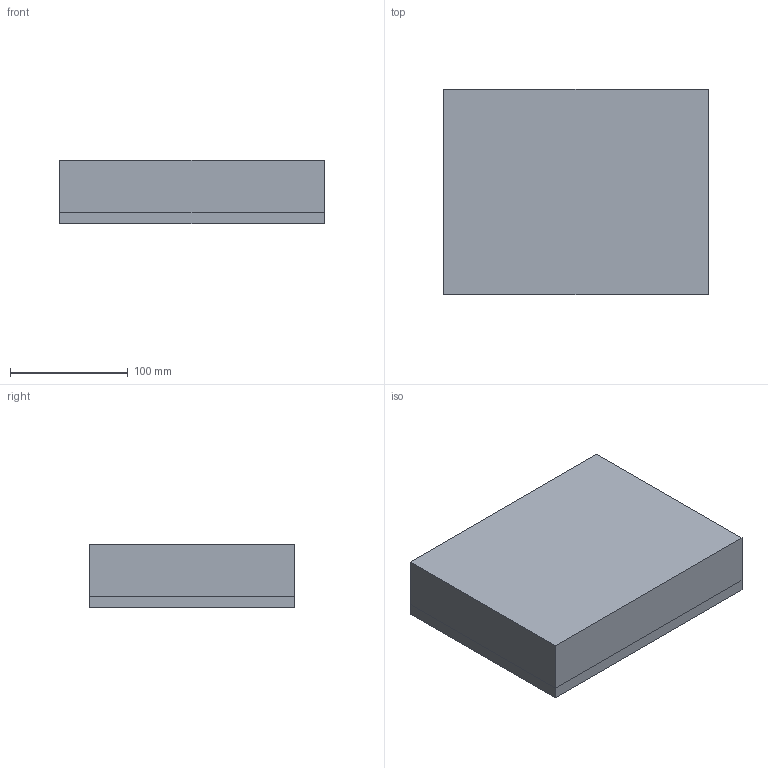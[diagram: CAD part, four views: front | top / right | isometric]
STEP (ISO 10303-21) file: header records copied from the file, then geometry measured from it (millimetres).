
FILE_DESCRIPTION(('CATIA V5 STEP Exchange'),'2;1');
FILE_NAME('C:\_Andres\UNIVERSIDAD\IQS\ASIGNATURAS\DAO\Controles\1920\c2\c2-Villanueva_Manye_Arnau.stp','2020-02-10T15:38:51+00:00',('none'),('none'),'CATIA Version 5 Release 19 SP 3 (IN-10)','CATIA V5 STEP AP203','none');
FILE_SCHEMA(('CONFIG_CONTROL_DESIGN'));
Length unit declared in the file: millimetre
Products named in the file (1): c2-Villanueva_Manye_Arnau
Bounding box: 224 x 174 x 54 mm (x, y, z)
Surface area: 308214.1 mm2
Topology: 3 solids, 3 shells, 103 faces, 232 edges, 128 vertices
Faces by surface type: cylinder 40, plane 27, bspline 24, sphere 12
Entity records: 3356 total; most frequent: CARTESIAN_POINT 1644, ORIENTED_EDGE 440, DIRECTION 224, EDGE_CURVE 164, EDGE_LOOP 110, ADVANCED_FACE 103, FACE_OUTER_BOUND 103, AXIS2_PLACEMENT_3D 96
